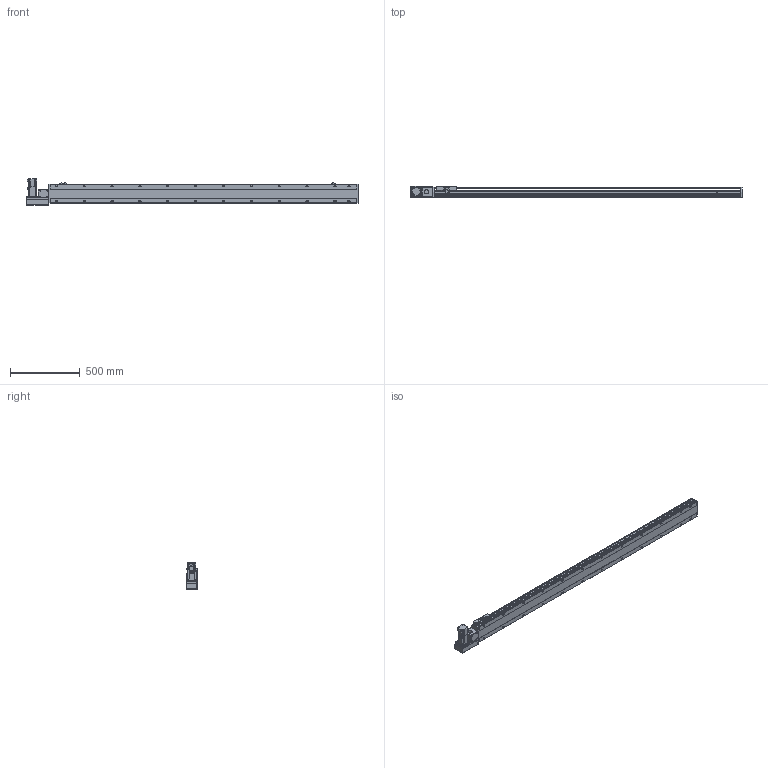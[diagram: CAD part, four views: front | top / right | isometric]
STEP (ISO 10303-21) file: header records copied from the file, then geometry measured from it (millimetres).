
FILE_DESCRIPTION( ( 'STEP AP214' ), '1' );
FILE_NAME( 'x:/temp/worker_27/temp/exporttempdir_6708_306_dSyWC/format_0/PBS140-P40-S1950-L-T40-C1-N(0).stp', '2022-06-06T01:06:21', ( 'License CC BY-ND 4.0' ), ( 'CADENAS' ), ' ', 'PARTsolutions', ' ' );
FILE_SCHEMA( ( 'AUTOMOTIVE_DESIGN { 1 0 10303 214 1 1 1 1 }' ) );
Length unit declared in the file: millimetre
Products named in the file (7): PBS140-P40-S1950-L-T40-C1-N(0); _PBS140-S1950()_body; _PBS140T-L_motors; _T40-p1; _PBS140_sliser; _PBS140_plant; _PBS140_sensor
Assembly tree (8 placements, depth 2):
  PBS140-P40-S1950-L-T40-C1-N(0)
    _PBS140-S1950()_body
    _PBS140T-L_motors
    _T40-p1
    _PBS140_sliser
    _PBS140_plant
    _PBS140_sensor  x3
Bounding box: 2383 x 80.5 x 189.7 mm (x, y, z)
Volume: 10494459.1 mm3; surface area: 1798822.1 mm2
Topology: 8 solids, 8 shells, 1139 faces, 2996 edges, 1957 vertices
Faces by surface type: plane 716, cylinder 363, cone 50, sphere 8, torus 2
Full cylindrical faces by diameter (mm): 3.242 x4, 4 x2, 4.134 x4, 4.4 x8, 4.5 x2, 4.8 x4, 4.917 x32, 5.5 x7, 6 x2, 7 x26, 7.5 x8, 8 x12, 8.5 x4, 10.5 x24, 14 x1, 30 x2, 50 x2
Entity records: 41857 total; most frequent: CARTESIAN_POINT 6923, DIRECTION 5477, ORIENTED_EDGE 5152, EDGE_CURVE 2576, AXIS2_PLACEMENT_3D 1927, VERTEX_POINT 1797, LINE 1623, VECTOR 1623
